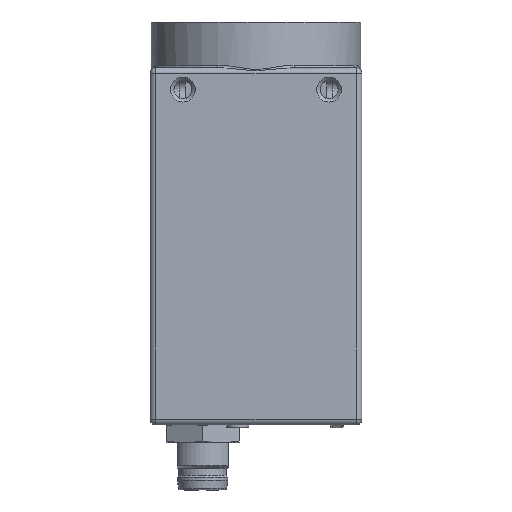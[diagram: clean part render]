
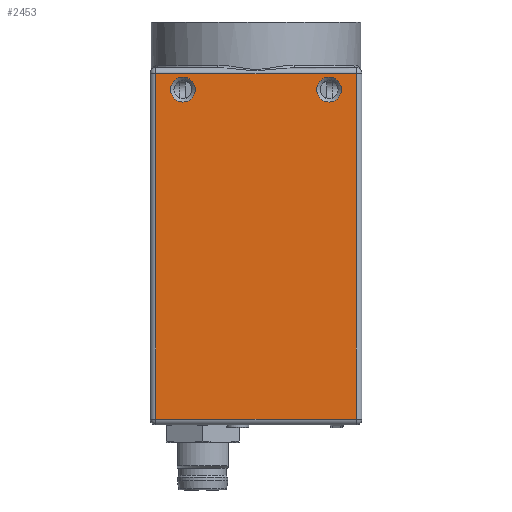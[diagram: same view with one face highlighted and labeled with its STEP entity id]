
A CAD part, left-side view. The second image highlights one B-rep face of the part: STEP entity #2453.
In plain terms, the highlighted planar face has unit normal (-1, 0, 0).
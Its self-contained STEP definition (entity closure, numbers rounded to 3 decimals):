
#2453 = ADVANCED_FACE( '', ( #7050, #7051, #7052 ), #7053, .T. );
#7050 = FACE_BOUND( '', #14244, .T. );
#7051 = FACE_BOUND( '', #14245, .T. );
#7052 = FACE_OUTER_BOUND( '', #14246, .T. );
#7053 = PLANE( '', #14247 );
#14244 = EDGE_LOOP( '', ( #23171 ) );
#14245 = EDGE_LOOP( '', ( #23172 ) );
#14246 = EDGE_LOOP( '', ( #23173, #23174, #23175, #23176 ) );
#14247 = AXIS2_PLACEMENT_3D( '', #23177, #23178, #23179 );
#23171 = ORIENTED_EDGE( '', *, *, #42871, .T. );
#23172 = ORIENTED_EDGE( '', *, *, #42872, .T. );
#23173 = ORIENTED_EDGE( '', *, *, #42873, .T. );
#23174 = ORIENTED_EDGE( '', *, *, #42874, .T. );
#23175 = ORIENTED_EDGE( '', *, *, #42875, .T. );
#23176 = ORIENTED_EDGE( '', *, *, #42876, .T. );
#23177 = CARTESIAN_POINT( '', ( -14.5, -14.5, 12.2 ) );
#23178 = DIRECTION( '', ( -1., 0., 0. ) );
#23179 = DIRECTION( '', ( 0., 0., 1. ) );
#42871 = EDGE_CURVE( '', #50984, #50984, #50985, .T. );
#42872 = EDGE_CURVE( '', #50986, #50986, #50987, .T. );
#42873 = EDGE_CURVE( '', #50988, #50989, #50990, .T. );
#42874 = EDGE_CURVE( '', #50989, #50991, #50992, .F. );
#42875 = EDGE_CURVE( '', #50991, #50993, #50994, .T. );
#42876 = EDGE_CURVE( '', #50993, #50988, #50995, .T. );
#50984 = VERTEX_POINT( '', #62763 );
#50985 = CIRCLE( '', #62764, 1.7 );
#50986 = VERTEX_POINT( '', #62765 );
#50987 = CIRCLE( '', #62766, 1.7 );
#50988 = VERTEX_POINT( '', #62767 );
#50989 = VERTEX_POINT( '', #62768 );
#50990 = LINE( '', #62769, #62770 );
#50991 = VERTEX_POINT( '', #62771 );
#50992 = LINE( '', #62772, #62773 );
#50993 = VERTEX_POINT( '', #62774 );
#50994 = LINE( '', #62775, #62776 );
#50995 = LINE( '', #62777, #62778 );
#62763 = CARTESIAN_POINT( '', ( -14.5, -8.3, 9.2 ) );
#62764 = AXIS2_PLACEMENT_3D( '', #79491, #79492, #79493 );
#62765 = CARTESIAN_POINT( '', ( -14.5, 11.7, 9.2 ) );
#62766 = AXIS2_PLACEMENT_3D( '', #79494, #79495, #79496 );
#62767 = CARTESIAN_POINT( '', ( -14.5, 13.7, -35.9 ) );
#62768 = CARTESIAN_POINT( '', ( -14.5, -13.7, -35.9 ) );
#62769 = CARTESIAN_POINT( '', ( -14.5, -14.5, -35.9 ) );
#62770 = VECTOR( '', #79497, 1000. );
#62771 = CARTESIAN_POINT( '', ( -14.5, -13.7, 11.4 ) );
#62772 = CARTESIAN_POINT( '', ( -14.5, -13.7, 12.2 ) );
#62773 = VECTOR( '', #79498, 1000. );
#62774 = CARTESIAN_POINT( '', ( -14.5, 13.7, 11.4 ) );
#62775 = CARTESIAN_POINT( '', ( -14.5, 14.5, 11.4 ) );
#62776 = VECTOR( '', #79499, 1000. );
#62777 = CARTESIAN_POINT( '', ( -14.5, 13.7, 12.2 ) );
#62778 = VECTOR( '', #79500, 1000. );
#79491 = CARTESIAN_POINT( '', ( -14.5, -10., 9.2 ) );
#79492 = DIRECTION( '', ( 1., 0., 0. ) );
#79493 = DIRECTION( '', ( 0., 1., 0. ) );
#79494 = CARTESIAN_POINT( '', ( -14.5, 10., 9.2 ) );
#79495 = DIRECTION( '', ( 1., 0., 0. ) );
#79496 = DIRECTION( '', ( 0., 1., 0. ) );
#79497 = DIRECTION( '', ( 0., -1., 0. ) );
#79498 = DIRECTION( '', ( 0., 0., -1. ) );
#79499 = DIRECTION( '', ( 0., 1., 0. ) );
#79500 = DIRECTION( '', ( 0., 0., -1. ) );
